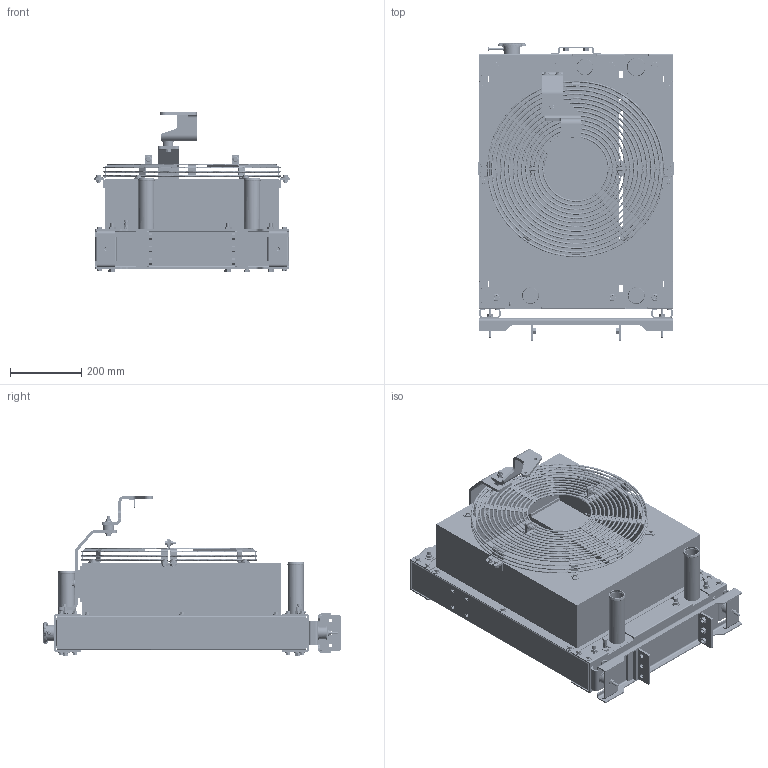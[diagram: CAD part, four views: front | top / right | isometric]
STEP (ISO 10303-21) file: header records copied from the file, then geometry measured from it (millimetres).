
FILE_DESCRIPTION(('CATIA V6 STEP'),'2;1');
FILE_NAME('\\grdcfs\Engine Dev\200.설계부문\200.G2설계팀\◆Head_Cooling_System\StageV\2_Cooling\3. Stadard_Cooling pack\02_대흥라디에이터\3. 공통 이슈\200601_Radiator Assy 개선 건\★강건사양\★내보낸 모델링\440211-01157D RADIATOR ASSY;DM02 52DEG.stp','2021-06-17T07:12:09+00:00',('none'),('none'),'3DEXPERIENCE Platform3DEXPERIENCE R2014x HotFix 24','3DEXPERIENCE Platform STEP AP203','none');
FILE_SCHEMA(('CONFIG_CONTROL_DESIGN'));
Bounding box: 550 x 835.45 x 450.1 mm (x, y, z)
Volume: 27978701.7 mm3; surface area: 4067604.3 mm2
Topology: 258 solids, 258 shells, 4829 faces, 11874 edges, 7789 vertices
Faces by surface type: plane 2256, cylinder 1362, cone 713, bspline 498
Entity records: 180392 total; most frequent: CARTESIAN_POINT 76332, ORIENTED_EDGE 23724, DIRECTION 16500, EDGE_CURVE 11862, VERTEX_POINT 7788, AXIS2_PLACEMENT_3D 6764, EDGE_LOOP 5578, VECTOR 5407
